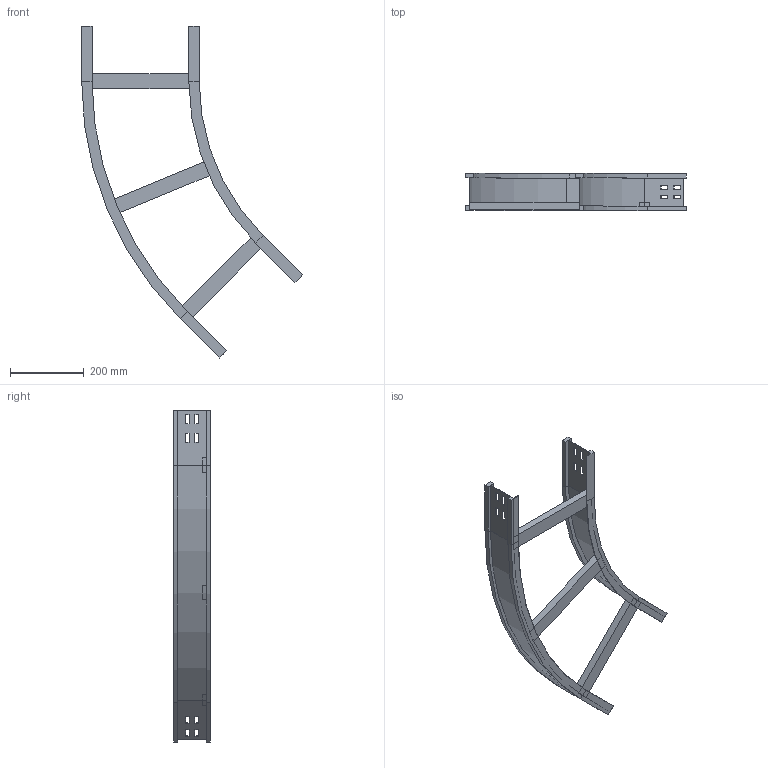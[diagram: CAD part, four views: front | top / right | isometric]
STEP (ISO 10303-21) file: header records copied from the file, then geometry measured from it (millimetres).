
FILE_DESCRIPTION (( 'STEP AP214' ), '1' );
FILE_NAME ('11S6D300.step', '2025-02-21T16:03:40', ( '' ), ( '' ), 'SwSTEP 2.0', 'SolidWorks 2023', '' );
FILE_SCHEMA (( 'AUTOMOTIVE_DESIGN' ));
Length unit declared in the file: millimetre
Products named in the file (4): 11S6D300; LONGH.INTERNO 45°_H100_R600; TRAVERSINO_300; LONGH.ESTERNO 45°_H100_R600+300
Assembly tree (5 placements, depth 2):
  11S6D300
    LONGH.INTERNO 45°_H100_R600
    LONGH.ESTERNO 45°_H100_R600+300
    TRAVERSINO_300  x3
Bounding box: 597.17 x 100 x 898.83 mm (x, y, z)
Volume: 1659146.1 mm3; surface area: 637318.9 mm2
Topology: 5 solids, 5 shells, 158 faces, 396 edges, 248 vertices
Faces by surface type: plane 146, cylinder 12
Entity records: 4477 total; most frequent: CARTESIAN_POINT 758, ORIENTED_EDGE 744, DIRECTION 704, EDGE_CURVE 372, LINE 348, VECTOR 348, VERTEX_POINT 232, EDGE_LOOP 178
